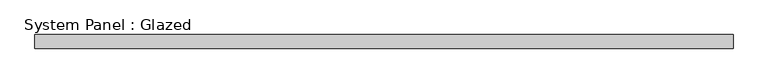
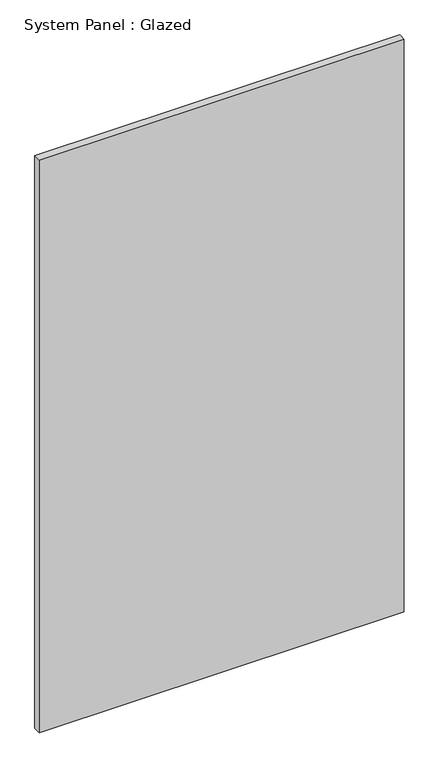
"""IFC4 building model written with IfcOpenShell, lengths in millimetres: plate geometry, System Panel : Glazed."""

import ifcopenshell
import ifcopenshell.guid

model = None  # the IFC model being written
_history = None  # IfcOwnerHistory: only IFC2X3 demands one
_inside = {}  # id of a spatial element -> (the spatial element, [elements in it])
_under = {}  # id of a project, library or spatial element -> (it, [spatial elements below it])
_declared = {}  # id of a project -> (the project, [libraries it declares])
_typed = {}  # id of a type object -> (the type object, [elements of that type])
_made_of = {}  # id of a material, layer set ... -> (it, [elements and type objects made of it])


def new_model(schema):
    """Start an empty IFC model of exactly this schema.

    Asked for "IFC4X3", IfcOpenShell would pick the latest addendum, in which some entities
    have other attributes; the version numbers below select the first issue.
    IFC2X3 requires an IfcOwnerHistory on every rooted entity: one is made here for all.
    """
    global model, _history
    if schema == "IFC4X3":
        model = ifcopenshell.file(schema_version=(4, 3, 0, 0))
    else:
        model = ifcopenshell.file(schema=schema)
    _inside.clear()
    _under.clear()
    _declared.clear()
    _typed.clear()
    _made_of.clear()
    _history = None
    if model.schema == "IFC2X3":
        org = make("IfcOrganization", Name="unknown")
        user = make(
            "IfcPersonAndOrganization",
            ThePerson=make("IfcPerson", FamilyName="unknown"),
            TheOrganization=org,
        )
        app = make(
            "IfcApplication",
            ApplicationDeveloper=org,
            Version="unknown",
            ApplicationFullName="unknown",
            ApplicationIdentifier="unknown",
        )
        _history = make(
            "IfcOwnerHistory",
            OwningUser=user,
            OwningApplication=app,
            ChangeAction="ADDED",
            CreationDate=0,
        )
    return model


def make(cls, **values):
    """One entity of the class cls with the attributes given. An attribute that is None is left unset."""
    return model.create_entity(
        cls, **{name: value for name, value in values.items() if value is not None}
    )


def rooted(cls, **values):
    """An entity with a GlobalId (a new one), such as an element, a storey or a relation."""
    return make(cls, GlobalId=ifcopenshell.guid.new(), OwnerHistory=_history, **values)


def si_unit(unit_type, name, prefix=None):
    """IfcSIUnit, for example si_unit("LENGTHUNIT", "METRE", prefix="MILLI")."""
    return make("IfcSIUnit", UnitType=unit_type, Prefix=prefix, Name=name)


def assignment(units):
    """IfcUnitAssignment: the units of a project."""
    return None if units is None else make("IfcUnitAssignment", Units=units)


def point(xyz):
    """IfcCartesianPoint."""
    return None if xyz is None else make("IfcCartesianPoint", Coordinates=xyz)


def direction(xyz):
    """IfcDirection."""
    return None if xyz is None else make("IfcDirection", DirectionRatios=xyz)


def frame(location, z_axis=None, x_axis=None):
    """IfcAxis2Placement3D, a coordinate frame: its origin and axes. An axis left out is left unset."""
    return make(
        "IfcAxis2Placement3D",
        Location=point(location),
        Axis=direction(z_axis),
        RefDirection=direction(x_axis),
    )


def origin():
    """The frame at (0, 0, 0) with its axes left unset."""
    return frame((0.0, 0.0, 0.0))


def origin_with_axes():
    """The frame at (0, 0, 0) with the z axis (0, 0, 1) and the x axis (1, 0, 0) written out."""
    return frame((0.0, 0.0, 0.0), z_axis=(0.0, 0.0, 1.0), x_axis=(1.0, 0.0, 0.0))


def place(relative_to, where):
    """IfcLocalPlacement: puts the frame where relative to a parent placement (None: the world)."""
    return make(
        "IfcLocalPlacement", PlacementRelTo=relative_to, RelativePlacement=where
    )


def context(
    kind, dimensions, precision=None, world=None, true_north=None, identifier=None
):
    """IfcGeometricRepresentationContext, for example the 3D "Model" context."""
    return make(
        "IfcGeometricRepresentationContext",
        ContextIdentifier=identifier,
        ContextType=kind,
        CoordinateSpaceDimension=dimensions,
        Precision=precision,
        WorldCoordinateSystem=world,
        TrueNorth=true_north,
    )


def project(units=None, contexts=None):
    """IfcProject with its units and contexts."""
    return rooted(
        "IfcProject",
        Name="project",
        RepresentationContexts=contexts,
        UnitsInContext=assignment(units),
    )


def spatial(cls, under=None, at=None, **own):
    """A site, building, storey or space (cls), placed at a placement, below another one or the project."""
    s = rooted(cls, ObjectPlacement=at, **own)
    if under is not None:
        _under.setdefault(under.id(), (under, []))[1].append(s)
    return s


def polyline(points):
    """IfcPolyline through the points."""
    return make("IfcPolyline", Points=[point(p) for p in points])


def outline(outer, holes=None, kind="AREA"):
    """IfcArbitraryClosedProfileDef: a profile drawn as a closed curve; with holes, ...WithVoids."""
    if holes is None:
        return make("IfcArbitraryClosedProfileDef", ProfileType=kind, OuterCurve=outer)
    return make(
        "IfcArbitraryProfileDefWithVoids",
        ProfileType=kind,
        OuterCurve=outer,
        InnerCurves=holes,
    )


def extrude(swept, where, along, depth):
    """IfcExtrudedAreaSolid: the profile swept, set in the frame where, extruded along a direction by depth."""
    return make(
        "IfcExtrudedAreaSolid",
        SweptArea=swept,
        Position=where,
        ExtrudedDirection=direction(along),
        Depth=depth,
    )


def shape(context_of_items, identifier, shape_type, items):
    """IfcShapeRepresentation: the items that make up one representation, for example the "Body"."""
    return make(
        "IfcShapeRepresentation",
        ContextOfItems=context_of_items,
        RepresentationIdentifier=identifier,
        RepresentationType=shape_type,
        Items=items,
    )


def source(mapping_origin, context_of_items, identifier, shape_type, items):
    """IfcRepresentationMap: a shape defined once, which mapped items show again and again."""
    return make(
        "IfcRepresentationMap",
        MappingOrigin=mapping_origin,
        MappedRepresentation=shape(context_of_items, identifier, shape_type, items),
    )


def transform(
    local_origin,
    x_axis=None,
    y_axis=None,
    z_axis=None,
    scale=None,
    scale2=None,
    scale3=None,
    uniform=True,
):
    """IfcCartesianTransformationOperator3D, or its non-uniform kind. x_axis, y_axis, z_axis: its Axis1, 2, 3."""
    if uniform:
        return make(
            "IfcCartesianTransformationOperator3D",
            Axis1=direction(x_axis),
            Axis2=direction(y_axis),
            LocalOrigin=point(local_origin),
            Scale=scale,
            Axis3=direction(z_axis),
        )
    return make(
        "IfcCartesianTransformationOperator3DnonUniform",
        Axis1=direction(x_axis),
        Axis2=direction(y_axis),
        LocalOrigin=point(local_origin),
        Scale=scale,
        Axis3=direction(z_axis),
        Scale2=scale2,
        Scale3=scale3,
    )


def mapped(mapping_source, mapping_target):
    """IfcMappedItem: shows the shape of a source again, moved by a transform."""
    return make(
        "IfcMappedItem", MappingSource=mapping_source, MappingTarget=mapping_target
    )


def made_of(thing, what):
    """Note that an element or type object is made of a material, layer set ...; save() writes the relation."""
    if what is not None:
        _made_of.setdefault(what.id(), (what, []))[1].append(thing)
    return thing


def element(
    cls,
    number,
    at=None,
    inside=None,
    cuts=None,
    type_object=None,
    material=None,
    context=None,
    identifier="Body",
    shape_type=None,
    held_by="IfcProductDefinitionShape",
    body=None,
    shapes=None,
    **own,
):
    """One element of the class cls, such as IfcWall. Its Tag is "e" and its number.

    at: its placement. inside: the storey or other place that contains it. cuts: it is an
    opening in that element (IfcRelVoidsElement). A single representation is given by context,
    identifier, shape_type and body (its items); several are given by shapes. held_by: the class
    of the entity that holds the representations. save() writes the other relations.
    """
    e = rooted(cls, Tag="e%d" % number, ObjectPlacement=at, **own)
    if body is not None:
        shapes = [shape(context, identifier, shape_type, body)]
    if shapes is not None:
        e.Representation = make(held_by, Representations=shapes)
    if inside is not None:
        _inside.setdefault(inside.id(), (inside, []))[1].append(e)
    if cuts is not None:
        rooted(
            "IfcRelVoidsElement", RelatingBuildingElement=cuts, RelatedOpeningElement=e
        )
    if type_object is not None:
        _typed.setdefault(type_object.id(), (type_object, []))[1].append(e)
    return made_of(e, material)


def aggregate(whole, parts):
    """IfcRelAggregates: a whole, such as a stair, and the parts it consists of."""
    return rooted("IfcRelAggregates", RelatingObject=whole, RelatedObjects=parts)


def save(model, path):
    """Write the relations noted so far, then the file.

    IfcRelAggregates (storeys below a building ...), IfcRelContainedInSpatialStructure (elements
    in a storey), IfcRelDefinesByType, IfcRelAssociatesMaterial and IfcRelDeclares: one each for
    every whole, place, type object, material and project.
    """
    for whole, parts in _under.values():
        aggregate(whole, parts)
    for where, things in _inside.values():
        rooted(
            "IfcRelContainedInSpatialStructure",
            RelatedElements=things,
            RelatingStructure=where,
        )
    for kind, things in _typed.values():
        rooted("IfcRelDefinesByType", RelatedObjects=things, RelatingType=kind)
    for what, things in _made_of.values():
        rooted("IfcRelAssociatesMaterial", RelatedObjects=things, RelatingMaterial=what)
    for by, libraries in _declared.values():
        rooted("IfcRelDeclares", RelatingContext=by, RelatedDefinitions=libraries)
    model.write(path)


def system_panel_glazed_98e6f03d(model_context):
    return source(origin(), model_context, "Body", "SweptSolid", [
        extrude(outline(polyline([(620.2777778, -49.5), (-620.2777778, -49.5), (-620.2777778, -24.5), (620.2777778, -24.5), (620.2777778, -49.5)])), origin_with_axes(), (0.0, 0.0, 1.0), 2058.6),
    ])


if __name__ == "__main__":
    model = new_model("IFC4")
    model_context = context("Model", 3, world=origin())
    ifc_project = project(units=[si_unit("LENGTHUNIT", "METRE", prefix="MILLI")], contexts=[model_context])
    site = spatial("IfcSite", under=ifc_project)
    building = spatial("IfcBuilding", under=site)
    placement = place(None, origin())
    system_panel_glazed_shape = system_panel_glazed_98e6f03d(model_context)
    element("IfcPlate", 1, ObjectType="System Panel : Glazed", at=placement, inside=building, context=model_context, shape_type="MappedRepresentation", body=[
        mapped(system_panel_glazed_shape, transform((0.0, 0.0, 0.0), x_axis=(1.0, 0.0, 0.0), y_axis=(0.0, 1.0, 0.0), z_axis=(0.0, 0.0, 1.0))),
    ])
    save(model, "model.ifc")
